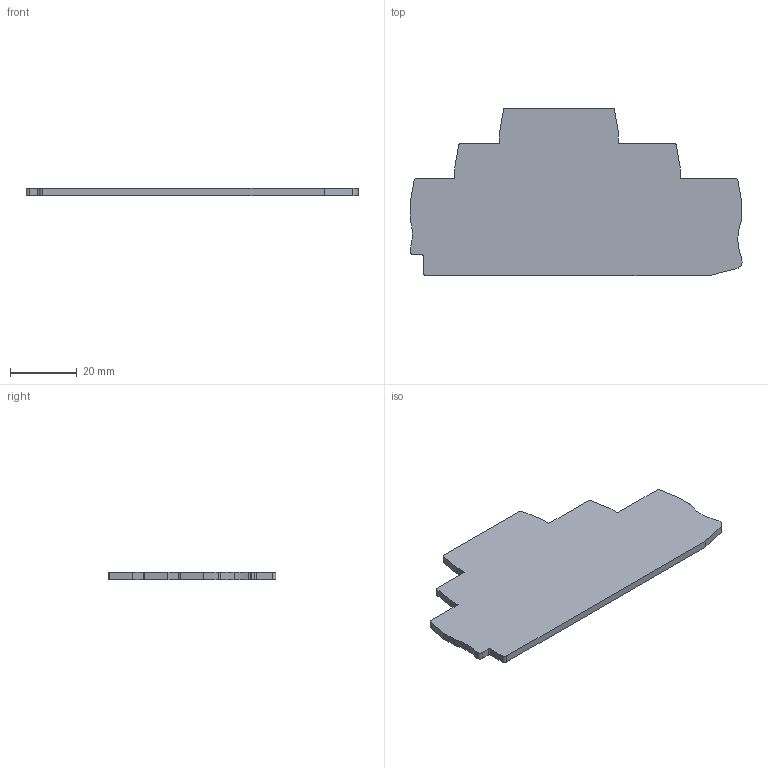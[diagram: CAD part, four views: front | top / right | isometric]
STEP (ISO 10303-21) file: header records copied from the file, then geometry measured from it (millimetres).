
FILE_DESCRIPTION(('SolidDesigner STEP Export'),'2;1');
FILE_NAME('3036660_d_st25-3l_select.stp','2004-03-17T 8:27:11',(''),(''),'OneSpaceDesigner STEP processor Version: 9.0 (March 2001)for AP203(Solid Model)','CoCreate OneSpaceDesigner: 11.50A 18-Jul-2002(C) CoCreate Software GmbH','');
FILE_SCHEMA(('CONFIG_CONTROL_DESIGN'));
Length unit declared in the file: millimetre
Products named in the file (2): 3036660_d_st25-3l_select
Assembly tree (1 placements, depth 2):
  3036660_d_st25-3l_select
    3036660_d_st25-3l_select
Bounding box: 99.45 x 50.25 x 2.2 mm (x, y, z)
Volume: 8580.8 mm3; surface area: 8434.6 mm2
Topology: 1 solids, 1 shells, 43 faces, 123 edges, 82 vertices
Faces by surface type: plane 25, cylinder 18
Entity records: 1605 total; most frequent: ORIENTED_EDGE 246, CARTESIAN_POINT 244, DIRECTION 237, EDGE_CURVE 123, VECTOR 87, LINE 87, VERTEX_POINT 82, AXIS2_PLACEMENT_3D 75
